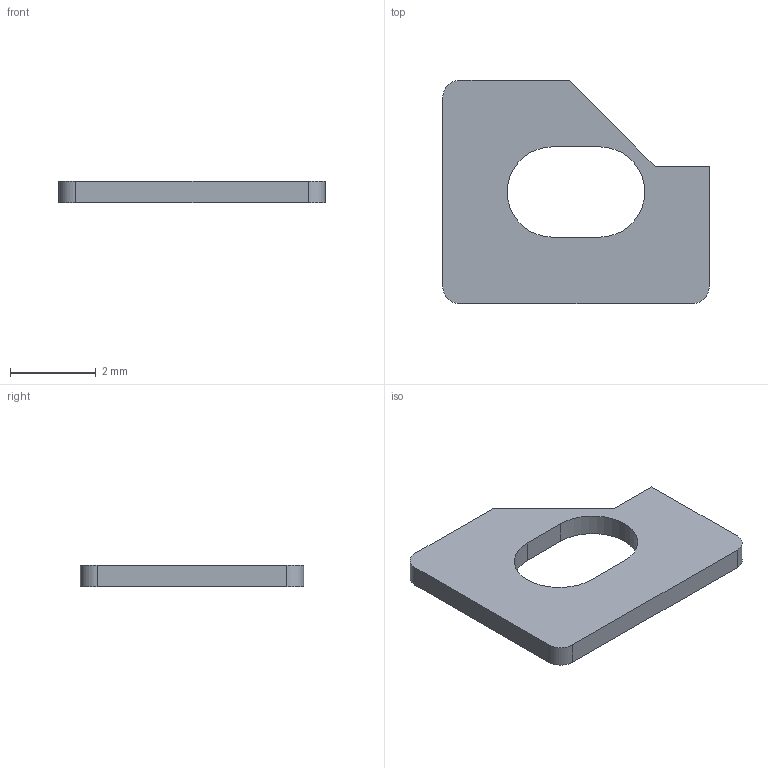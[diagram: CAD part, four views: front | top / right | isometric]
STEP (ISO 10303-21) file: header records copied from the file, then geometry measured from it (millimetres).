
FILE_DESCRIPTION(('Open CASCADE Model'),'2;1');
FILE_NAME('Open CASCADE Shape Model','2026-09-13T21:07:18',('Author'),( 'Open CASCADE'),'Open CASCADE STEP processor 7.9','Open CASCADE 7.9' ,'Unknown');
FILE_SCHEMA(('AUTOMOTIVE_DESIGN { 1 0 10303 214 1 1 1 1 }'));
Length unit declared in the file: millimetre
Products named in the file (1): Open CASCADE STEP translator 7.9 4
Bounding box: 6.2 x 5.2 x 0.5 mm (x, y, z)
Volume: 10.9 mm3; surface area: 58.6 mm2
Topology: 1 solids, 1 shells, 15 faces, 39 edges, 26 vertices
Faces by surface type: plane 10, cylinder 5
Entity records: 988 total; most frequent: CARTESIAN_POINT 227, DIRECTION 131, ORIENTED_EDGE 78, PCURVE 78, DEFINITIONAL_REPRESENTATION 78, LINE 77, VECTOR 77, EDGE_CURVE 39
